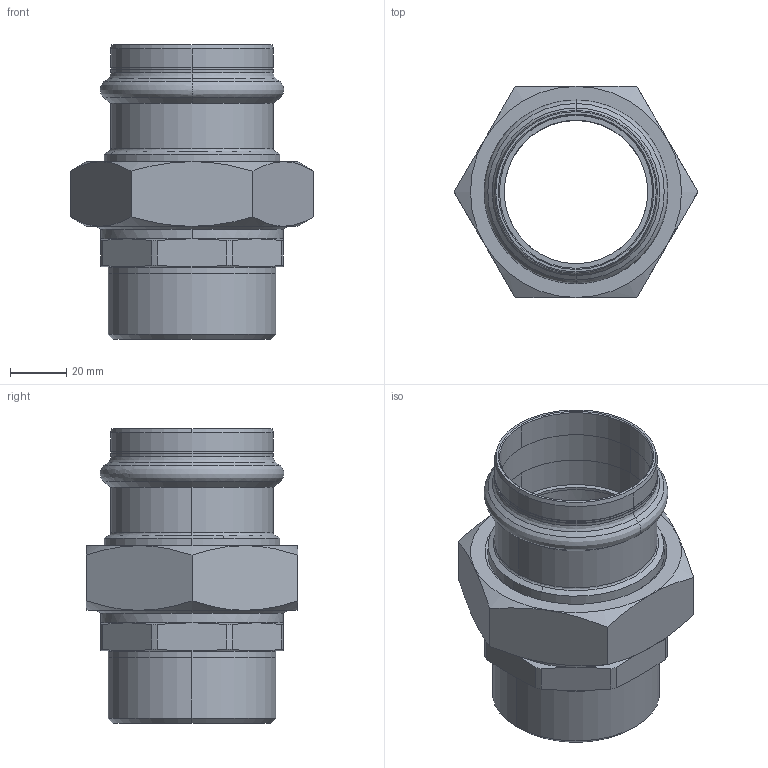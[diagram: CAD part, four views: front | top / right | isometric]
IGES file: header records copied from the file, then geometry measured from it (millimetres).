
Start section: Elysium IGES Interface
Global section: file name: F:\3d modellen sudo\S-Pr VP\SP6331GV\6331GVW542.igs; native system: CoCreate Modeling 17.00A  17-Jun-2010; preprocessor: CoCreate IGES_3D V2.2; author: Unknown; organization: Unknown; date: 20130129.091455; units: millimetre
Bounding box: 86.6 x 75 x 104.7 mm (x, y, z)
Volume: 115091 mm3; surface area: 55934.9 mm2
Topology: 3 solids, 3 shells, 145 faces, 336 edges, 202 vertices
Faces by surface type: bspline 145
